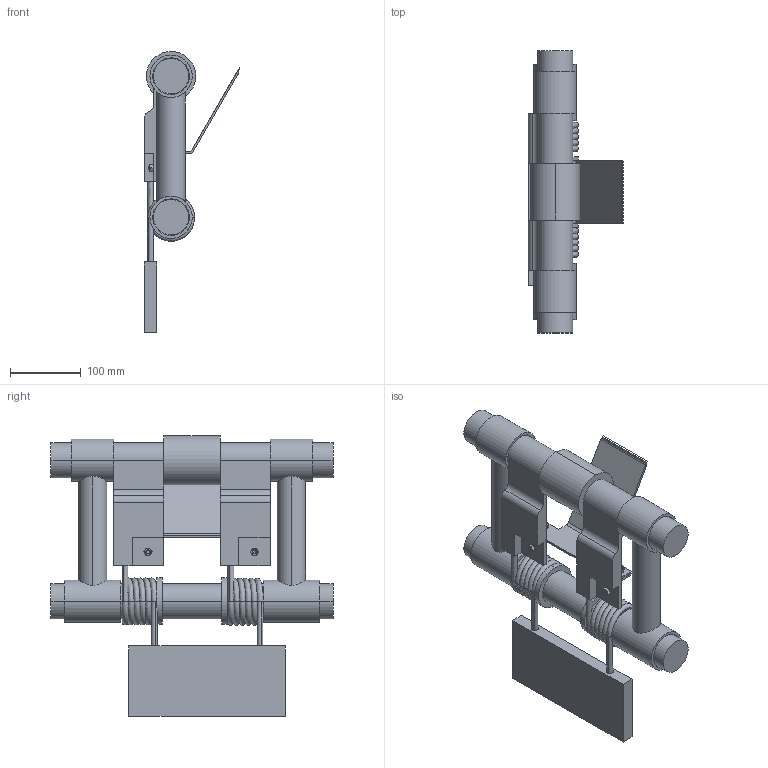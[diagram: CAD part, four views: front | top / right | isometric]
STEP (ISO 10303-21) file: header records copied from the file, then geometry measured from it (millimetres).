
FILE_DESCRIPTION(('CATIA V5 STEP Exchange','CAx-IF Rec.Pracs.--- Model Styling and Organization---1.4--- 2014-01-23','CAx-IF Rec.Pracs.---3D Tessellated Data Validation Properties---0.5---2014-09-14'),'2;1');
FILE_NAME('C:\Users\제5강의실-23\Desktop\TapeCutter\TapeCutter.stp','2024-09-25T03:53:44+00:00',('none'),('none'),'CATIA Version 5-6 Release 2019','3DEXPERIENCE Platform STEP AP242 v1','none');
FILE_SCHEMA(('AP242_MANAGED_MODEL_BASED_3D_ENGINEERING_MIM_LF {1 0 10303 442 1 1 4}'));
Length unit declared in the file: millimetre
Products named in the file (11): TapeCutter_Link1; C01; C02; c03; c04; c05; HPTBS6-SET; HPTBS6-SET_b.; Spring_R6_L10; WrenchBolt_M6-15L; Nut_M6-5H
Assembly tree (19 placements, depth 3):
  TapeCutter_Link1
    C01  x2
    C02
    c03
    c04
    c05
    HPTBS6-SET  x2
      HPTBS6-SET_b.
    Spring_R6_L10  x2
    WrenchBolt_M6-15L  x4
    Nut_M6-5H  x4
Bounding box: 135.46 x 400 x 398.5 mm (x, y, z)
Volume: 3174374.1 mm3; surface area: 505805.8 mm2
Topology: 18 solids, 18 shells, 482 faces, 1195 edges, 751 vertices
Faces by surface type: plane 245, cylinder 105, cone 76, bspline 48, torus 8
Entity records: 12476 total; most frequent: CARTESIAN_POINT 5550, ORIENTED_EDGE 1492, DIRECTION 1159, EDGE_CURVE 746, VERTEX_POINT 470, VECTOR 447, AXIS2_PLACEMENT_3D 447, LINE 447
